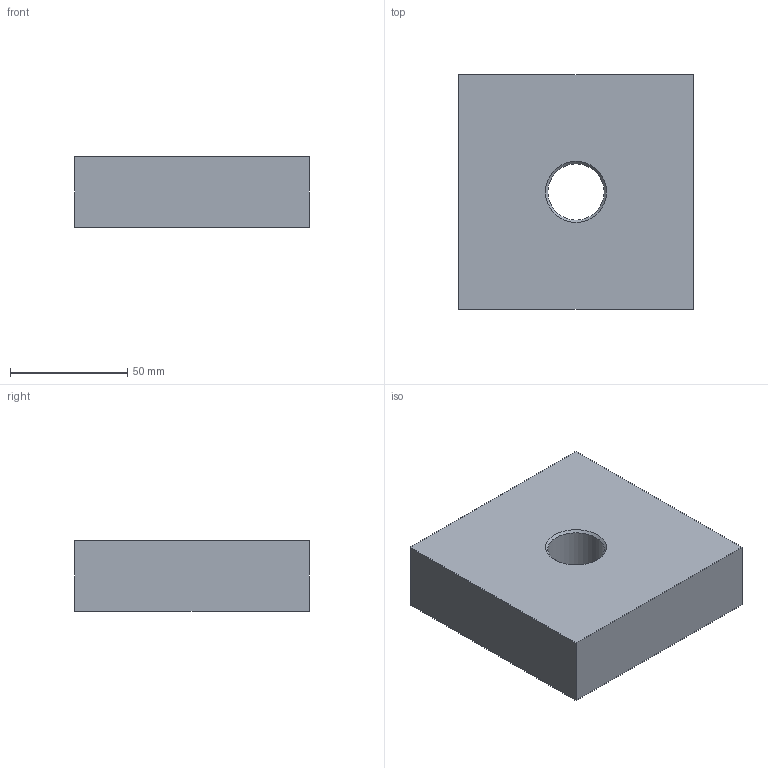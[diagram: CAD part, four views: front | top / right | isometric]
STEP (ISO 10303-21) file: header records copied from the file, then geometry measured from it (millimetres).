
FILE_DESCRIPTION(('Open CASCADE Model'),'2;1');
FILE_NAME('Open CASCADE Shape Model','2026-10-21T16:53:51',('Author'),( 'Open CASCADE'),'Open CASCADE STEP processor 7.9','Open CASCADE 7.9' ,'Unknown');
FILE_SCHEMA(('AUTOMOTIVE_DESIGN { 1 0 10303 214 1 1 1 1 }'));
Length unit declared in the file: millimetre
Products named in the file (1): Open CASCADE STEP translator 7.9 6
Bounding box: 100 x 100 x 30 mm (x, y, z)
Volume: 285343.6 mm3; surface area: 33724.5 mm2
Topology: 1 solids, 1 shells, 16 faces, 29 edges, 19 vertices
Faces by surface type: plane 10, cylinder 5, cone 1
Full cylindrical faces by diameter (mm): 10.2 x4, 24 x1
Entity records: 802 total; most frequent: CARTESIAN_POINT 153, DIRECTION 127, LINE 66, VECTOR 66, ORIENTED_EDGE 58, PCURVE 58, DEFINITIONAL_REPRESENTATION 58, EDGE_CURVE 29
